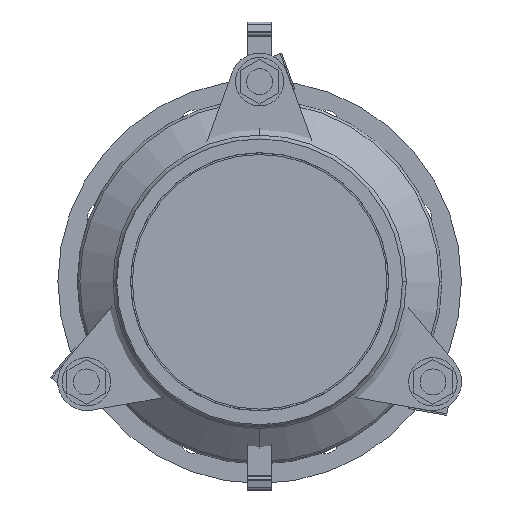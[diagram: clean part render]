
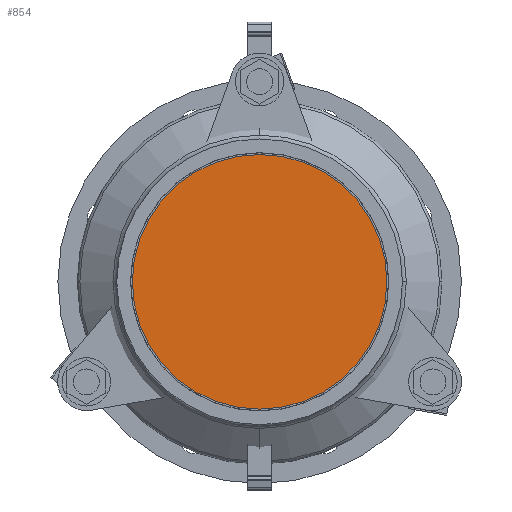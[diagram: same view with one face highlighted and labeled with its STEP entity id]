
A CAD part, left-side view. The second image highlights one B-rep face of the part: STEP entity #854.
In plain terms, the highlighted planar face has unit normal (-1, 0, 0).
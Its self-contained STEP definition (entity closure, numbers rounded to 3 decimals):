
#854=ADVANCED_FACE('',(#1747),#1748,.T.);
#1747=FACE_OUTER_BOUND('',#2956,.T.);
#1748=PLANE('',#2957);
#2956=EDGE_LOOP('',(#4284,#4285));
#2957=AXIS2_PLACEMENT_3D('',#4286,#4287,#4288);
#4284=ORIENTED_EDGE('',*,*,#6715,.T.);
#4285=ORIENTED_EDGE('',*,*,#6716,.T.);
#4286=CARTESIAN_POINT('',(-64.5,0.0,0.0));
#4287=DIRECTION('',(-1.0,0.0,0.));
#4288=DIRECTION('',(0.,0.0,1.0));
#6715=EDGE_CURVE('',#7983,#7984,#7985,.T.);
#6716=EDGE_CURVE('',#7984,#7983,#7986,.T.);
#7983=VERTEX_POINT('',#9651);
#7984=VERTEX_POINT('',#9652);
#7985=CIRCLE('',#9653,88.5);
#7986=CIRCLE('',#9654,88.5);
#9651=CARTESIAN_POINT('',(-64.5,0.0,-88.5));
#9652=CARTESIAN_POINT('',(-64.5,0.,88.5));
#9653=AXIS2_PLACEMENT_3D('',#11273,#11274,#11275);
#9654=AXIS2_PLACEMENT_3D('',#11276,#11277,#11278);
#11273=CARTESIAN_POINT('',(-64.5,0.0,0.0));
#11274=DIRECTION('',(-1.0,0.0,0.));
#11275=DIRECTION('',(0.,0.0,-1.0));
#11276=CARTESIAN_POINT('',(-64.5,0.0,0.0));
#11277=DIRECTION('',(-1.0,0.0,0.));
#11278=DIRECTION('',(0.,0.0,-1.0));
